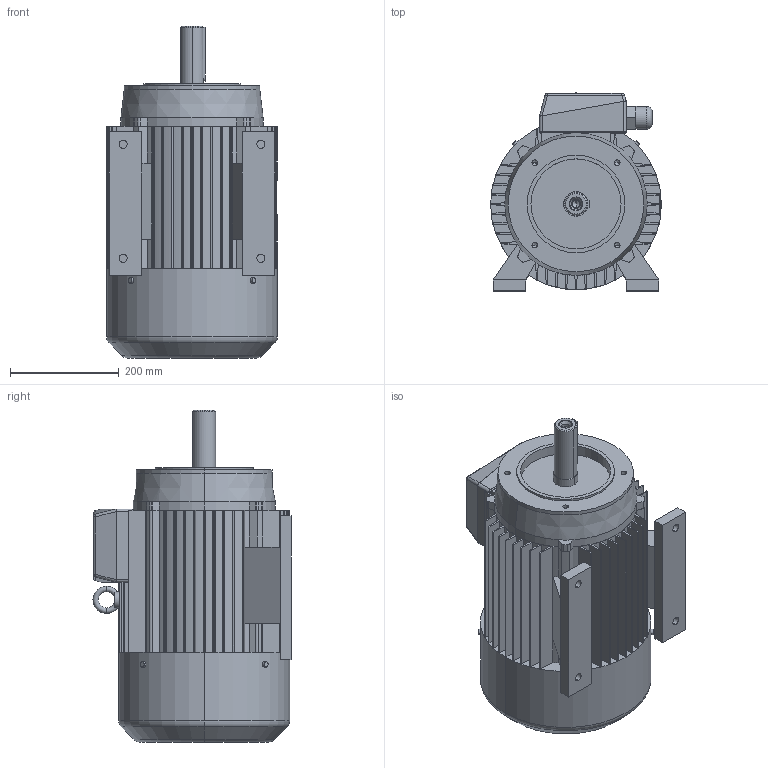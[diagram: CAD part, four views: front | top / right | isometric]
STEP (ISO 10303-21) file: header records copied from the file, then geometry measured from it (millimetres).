
FILE_DESCRIPTION (( 'STEP AP203' ), '1' );
FILE_NAME ('SLg 160M-B34-C2.STEP', '2010-04-15T13:03:19', ( 'INDUKTA' ), ( 'CANTONI MOTOR' ), 'SwSTEP 2.0', 'SolidWorks 2003064', '' );
FILE_SCHEMA (( 'CONFIG_CONTROL_DESIGN' ));
Length unit declared in the file: millimetre
Products named in the file (1): SLg 160M-B34-C2
Bounding box: 315 x 365 x 612 mm (x, y, z)
Volume: 34347874.9 mm3; surface area: 1622693.9 mm2
Topology: 14 solids, 14 shells, 548 faces, 1445 edges, 927 vertices
Faces by surface type: plane 269, cylinder 195, bspline 42, cone 22, torus 16, sphere 4
Entity records: 19978 total; most frequent: CARTESIAN_POINT 6400, ORIENTED_EDGE 2862, DIRECTION 2760, EDGE_CURVE 1431, AXIS2_PLACEMENT_3D 931, VERTEX_POINT 927, LINE 898, VECTOR 898
